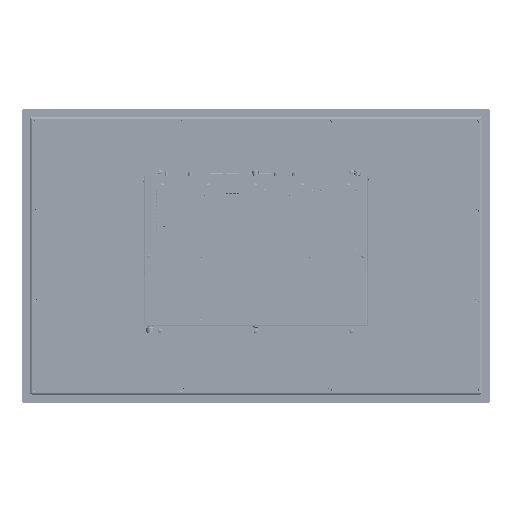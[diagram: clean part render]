
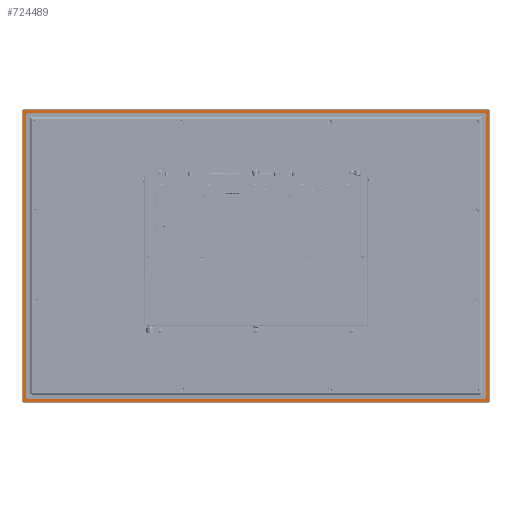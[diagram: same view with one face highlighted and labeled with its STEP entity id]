
A CAD part, front view. The second image highlights one B-rep face of the part: STEP entity #724489.
In plain terms, the highlighted planar face has unit normal (0, -1, 0).
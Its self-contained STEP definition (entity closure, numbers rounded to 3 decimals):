
#5908 = CARTESIAN_POINT ( 'NONE',  ( 316.75, 0.5, 203.5 ) ) ;
#7741 = LINE ( 'NONE', #600809, #431277 ) ;
#35935 = CARTESIAN_POINT ( 'NONE',  ( -318.75, 0.5, -194.5 ) ) ;
#38425 = DIRECTION ( 'NONE',  ( 0., -1., 0. ) ) ;
#50385 = DIRECTION ( 'NONE',  ( 1., 0., 0. ) ) ;
#54377 = AXIS2_PLACEMENT_3D ( 'NONE', #435800, #843944, #438746 ) ;
#59433 = DIRECTION ( 'NONE',  ( -1., 0., 0. ) ) ;
#71293 = VERTEX_POINT ( 'NONE', #35935 ) ;
#76425 = EDGE_LOOP ( 'NONE', ( #644099, #857534, #552811, #781035, #701924, #215562, #625358, #453014 ) ) ;
#87524 = VERTEX_POINT ( 'NONE', #505267 ) ;
#88858 = DIRECTION ( 'NONE',  ( 0., 0., -1. ) ) ;
#93510 = VERTEX_POINT ( 'NONE', #452921 ) ;
#94651 = CARTESIAN_POINT ( 'NONE',  ( -316.75, 0.5, -194.5 ) ) ;
#100669 = CARTESIAN_POINT ( 'NONE',  ( 0., 0.5, 0. ) ) ;
#103125 = ORIENTED_EDGE ( 'NONE', *, *, #180003, .F. ) ;
#105344 = VECTOR ( 'NONE', #228540, 1000. ) ;
#105944 = EDGE_CURVE ( 'NONE', #71293, #87524, #827539, .T. ) ;
#110188 = VECTOR ( 'NONE', #558544, 1000. ) ;
#118494 = DIRECTION ( 'NONE',  ( 0., -1., 0. ) ) ;
#122033 = VERTEX_POINT ( 'NONE', #822030 ) ;
#127383 = CARTESIAN_POINT ( 'NONE',  ( 318.75, 0.5, -194.5 ) ) ;
#129087 = VECTOR ( 'NONE', #238127, 1000. ) ;
#165609 = CARTESIAN_POINT ( 'NONE',  ( -312.75, 0.5, -191.5 ) ) ;
#166303 = ORIENTED_EDGE ( 'NONE', *, *, #472382, .F. ) ;
#172454 = EDGE_LOOP ( 'NONE', ( #647803, #103125, #430720, #229034, #255250, #195378, #166303, #518278 ) ) ;
#177422 = EDGE_CURVE ( 'NONE', #795886, #269501, #440749, .T. ) ;
#180003 = EDGE_CURVE ( 'NONE', #716629, #312297, #446175, .T. ) ;
#195378 = ORIENTED_EDGE ( 'NONE', *, *, #177422, .F. ) ;
#203479 = DIRECTION ( 'NONE',  ( 0., -1., 0. ) ) ;
#215562 = ORIENTED_EDGE ( 'NONE', *, *, #316393, .F. ) ;
#228540 = DIRECTION ( 'NONE',  ( 0., 0., 1. ) ) ;
#229034 = ORIENTED_EDGE ( 'NONE', *, *, #814792, .F. ) ;
#238127 = DIRECTION ( 'NONE',  ( 0., 0., 1. ) ) ;
#240644 = CARTESIAN_POINT ( 'NONE',  ( 313.75, 0.5, -190.5 ) ) ;
#255250 = ORIENTED_EDGE ( 'NONE', *, *, #527636, .F. ) ;
#269501 = VERTEX_POINT ( 'NONE', #826813 ) ;
#270144 = DIRECTION ( 'NONE',  ( -1., 0., 0. ) ) ;
#270646 = AXIS2_PLACEMENT_3D ( 'NONE', #94651, #568021, #88858 ) ;
#281396 = LINE ( 'NONE', #681131, #863596 ) ;
#283598 = CARTESIAN_POINT ( 'NONE',  ( 318.75, 0.5, 201.5 ) ) ;
#292340 = VERTEX_POINT ( 'NONE', #378619 ) ;
#294389 = CARTESIAN_POINT ( 'NONE',  ( -318.75, 0.5, -194.5 ) ) ;
#307051 = VERTEX_POINT ( 'NONE', #5908 ) ;
#312297 = VERTEX_POINT ( 'NONE', #165609 ) ;
#316393 = EDGE_CURVE ( 'NONE', #122033, #71293, #487961, .T. ) ;
#319246 = VERTEX_POINT ( 'NONE', #748500 ) ;
#324263 = CARTESIAN_POINT ( 'NONE',  ( 316.75, 0.5, -196.5 ) ) ;
#327809 = AXIS2_PLACEMENT_3D ( 'NONE', #875674, #745556, #59433 ) ;
#333861 = VERTEX_POINT ( 'NONE', #687676 ) ;
#341121 = AXIS2_PLACEMENT_3D ( 'NONE', #835730, #770691, #708477 ) ;
#362641 = EDGE_CURVE ( 'NONE', #93510, #122033, #618809, .T. ) ;
#368813 = CARTESIAN_POINT ( 'NONE',  ( 313.75, 0.5, 197.5 ) ) ;
#369952 = DIRECTION ( 'NONE',  ( -1., 0., 0. ) ) ;
#372804 = CARTESIAN_POINT ( 'NONE',  ( 316.75, 0.5, 201.5 ) ) ;
#378619 = CARTESIAN_POINT ( 'NONE',  ( -316.75, 0.5, 203.5 ) ) ;
#380468 = LINE ( 'NONE', #553975, #105344 ) ;
#387787 = VERTEX_POINT ( 'NONE', #127383 ) ;
#398753 = CIRCLE ( 'NONE', #327809, 2. ) ;
#403336 = VECTOR ( 'NONE', #833871, 1000. ) ;
#411305 = EDGE_CURVE ( 'NONE', #583341, #480838, #586546, .T. ) ;
#427693 = VECTOR ( 'NONE', #568676, 1000. ) ;
#430720 = ORIENTED_EDGE ( 'NONE', *, *, #533515, .F. ) ;
#431277 = VECTOR ( 'NONE', #861088, 1000. ) ;
#431603 = CARTESIAN_POINT ( 'NONE',  ( -312.75, 0.5, -191.5 ) ) ;
#434867 = PLANE ( 'NONE',  #744235 ) ;
#435800 = CARTESIAN_POINT ( 'NONE',  ( -312.75, 0.5, -190.5 ) ) ;
#438746 = DIRECTION ( 'NONE',  ( -1., 0., 0. ) ) ;
#440633 = DIRECTION ( 'NONE',  ( 0., 1., 0. ) ) ;
#440749 = CIRCLE ( 'NONE', #788896, 1. ) ;
#441722 = EDGE_CURVE ( 'NONE', #387787, #93510, #461551, .T. ) ;
#444914 = AXIS2_PLACEMENT_3D ( 'NONE', #372804, #440633, #712803 ) ;
#446175 = CIRCLE ( 'NONE', #54377, 1. ) ;
#452921 = CARTESIAN_POINT ( 'NONE',  ( 316.75, 0.5, -196.5 ) ) ;
#453014 = ORIENTED_EDGE ( 'NONE', *, *, #441722, .F. ) ;
#461551 = CIRCLE ( 'NONE', #831820, 2. ) ;
#463796 = FACE_OUTER_BOUND ( 'NONE', #76425, .T. ) ;
#472382 = EDGE_CURVE ( 'NONE', #480838, #795886, #380468, .T. ) ;
#477091 = LINE ( 'NONE', #431603, #403336 ) ;
#478367 = DIRECTION ( 'NONE',  ( 0., 0., 1. ) ) ;
#480838 = VERTEX_POINT ( 'NONE', #240644 ) ;
#484653 = CARTESIAN_POINT ( 'NONE',  ( -313.75, 0.5, 197.5 ) ) ;
#487961 = CIRCLE ( 'NONE', #270646, 2. ) ;
#505267 = CARTESIAN_POINT ( 'NONE',  ( -318.75, 0.5, 201.5 ) ) ;
#518278 = ORIENTED_EDGE ( 'NONE', *, *, #411305, .F. ) ;
#527636 = EDGE_CURVE ( 'NONE', #269501, #319246, #281396, .T. ) ;
#533515 = EDGE_CURVE ( 'NONE', #333861, #716629, #533631, .T. ) ;
#533631 = LINE ( 'NONE', #484653, #110188 ) ;
#546400 = CARTESIAN_POINT ( 'NONE',  ( -312.75, 0.5, 197.5 ) ) ;
#552811 = ORIENTED_EDGE ( 'NONE', *, *, #798401, .F. ) ;
#553975 = CARTESIAN_POINT ( 'NONE',  ( 313.75, 0.5, -190.5 ) ) ;
#558544 = DIRECTION ( 'NONE',  ( 0., 0., -1. ) ) ;
#568021 = DIRECTION ( 'NONE',  ( 0., 1., 0. ) ) ;
#568676 = DIRECTION ( 'NONE',  ( 0., 0., -1. ) ) ;
#571536 = CARTESIAN_POINT ( 'NONE',  ( 318.75, 0.5, 201.5 ) ) ;
#575668 = EDGE_CURVE ( 'NONE', #312297, #583341, #477091, .T. ) ;
#583341 = VERTEX_POINT ( 'NONE', #745022 ) ;
#586546 = CIRCLE ( 'NONE', #341121, 1. ) ;
#587430 = VECTOR ( 'NONE', #664152, 1000. ) ;
#590525 = DIRECTION ( 'NONE',  ( 1., 0., 0. ) ) ;
#600809 = CARTESIAN_POINT ( 'NONE',  ( -316.75, 0.5, 203.5 ) ) ;
#613058 = CIRCLE ( 'NONE', #444914, 2. ) ;
#618809 = LINE ( 'NONE', #324263, #587430 ) ;
#625358 = ORIENTED_EDGE ( 'NONE', *, *, #362641, .F. ) ;
#644099 = ORIENTED_EDGE ( 'NONE', *, *, #708928, .F. ) ;
#647803 = ORIENTED_EDGE ( 'NONE', *, *, #575668, .F. ) ;
#662630 = CARTESIAN_POINT ( 'NONE',  ( 312.75, 0.5, 197.5 ) ) ;
#663864 = AXIS2_PLACEMENT_3D ( 'NONE', #546400, #203479, #478367 ) ;
#664152 = DIRECTION ( 'NONE',  ( -1., 0., 0. ) ) ;
#667165 = DIRECTION ( 'NONE',  ( 0., 1., 0. ) ) ;
#678848 = CARTESIAN_POINT ( 'NONE',  ( -313.75, 0.5, -190.5 ) ) ;
#681131 = CARTESIAN_POINT ( 'NONE',  ( 312.75, 0.5, 198.5 ) ) ;
#687676 = CARTESIAN_POINT ( 'NONE',  ( -313.75, 0.5, 197.5 ) ) ;
#701924 = ORIENTED_EDGE ( 'NONE', *, *, #105944, .F. ) ;
#708477 = DIRECTION ( 'NONE',  ( 0., 0., -1. ) ) ;
#708928 = EDGE_CURVE ( 'NONE', #816110, #387787, #713710, .T. ) ;
#712803 = DIRECTION ( 'NONE',  ( 0., 0., 1. ) ) ;
#713710 = LINE ( 'NONE', #571536, #427693 ) ;
#716629 = VERTEX_POINT ( 'NONE', #678848 ) ;
#724489 = ADVANCED_FACE ( 'NONE', ( #844856, #463796 ), #434867, .T. ) ;
#737187 = EDGE_CURVE ( 'NONE', #307051, #816110, #613058, .T. ) ;
#744235 = AXIS2_PLACEMENT_3D ( 'NONE', #100669, #38425, #369952 ) ;
#745022 = CARTESIAN_POINT ( 'NONE',  ( 312.75, 0.5, -191.5 ) ) ;
#745556 = DIRECTION ( 'NONE',  ( 0., 1., 0. ) ) ;
#748500 = CARTESIAN_POINT ( 'NONE',  ( -312.75, 0.5, 198.5 ) ) ;
#770691 = DIRECTION ( 'NONE',  ( 0., -1., 0. ) ) ;
#781035 = ORIENTED_EDGE ( 'NONE', *, *, #806052, .F. ) ;
#788896 = AXIS2_PLACEMENT_3D ( 'NONE', #662630, #118494, #50385 ) ;
#795886 = VERTEX_POINT ( 'NONE', #368813 ) ;
#798401 = EDGE_CURVE ( 'NONE', #292340, #307051, #7741, .T. ) ;
#806052 = EDGE_CURVE ( 'NONE', #87524, #292340, #398753, .T. ) ;
#814792 = EDGE_CURVE ( 'NONE', #319246, #333861, #839678, .T. ) ;
#816110 = VERTEX_POINT ( 'NONE', #283598 ) ;
#822030 = CARTESIAN_POINT ( 'NONE',  ( -316.75, 0.5, -196.5 ) ) ;
#826813 = CARTESIAN_POINT ( 'NONE',  ( 312.75, 0.5, 198.5 ) ) ;
#827539 = LINE ( 'NONE', #294389, #129087 ) ;
#831820 = AXIS2_PLACEMENT_3D ( 'NONE', #868298, #667165, #590525 ) ;
#833871 = DIRECTION ( 'NONE',  ( 1., 0., 0. ) ) ;
#835730 = CARTESIAN_POINT ( 'NONE',  ( 312.75, 0.5, -190.5 ) ) ;
#839678 = CIRCLE ( 'NONE', #663864, 1. ) ;
#843944 = DIRECTION ( 'NONE',  ( 0., -1., 0. ) ) ;
#844856 = FACE_BOUND ( 'NONE', #172454, .T. ) ;
#857534 = ORIENTED_EDGE ( 'NONE', *, *, #737187, .F. ) ;
#861088 = DIRECTION ( 'NONE',  ( 1., 0., 0. ) ) ;
#863596 = VECTOR ( 'NONE', #270144, 1000. ) ;
#868298 = CARTESIAN_POINT ( 'NONE',  ( 316.75, 0.5, -194.5 ) ) ;
#875674 = CARTESIAN_POINT ( 'NONE',  ( -316.75, 0.5, 201.5 ) ) ;
